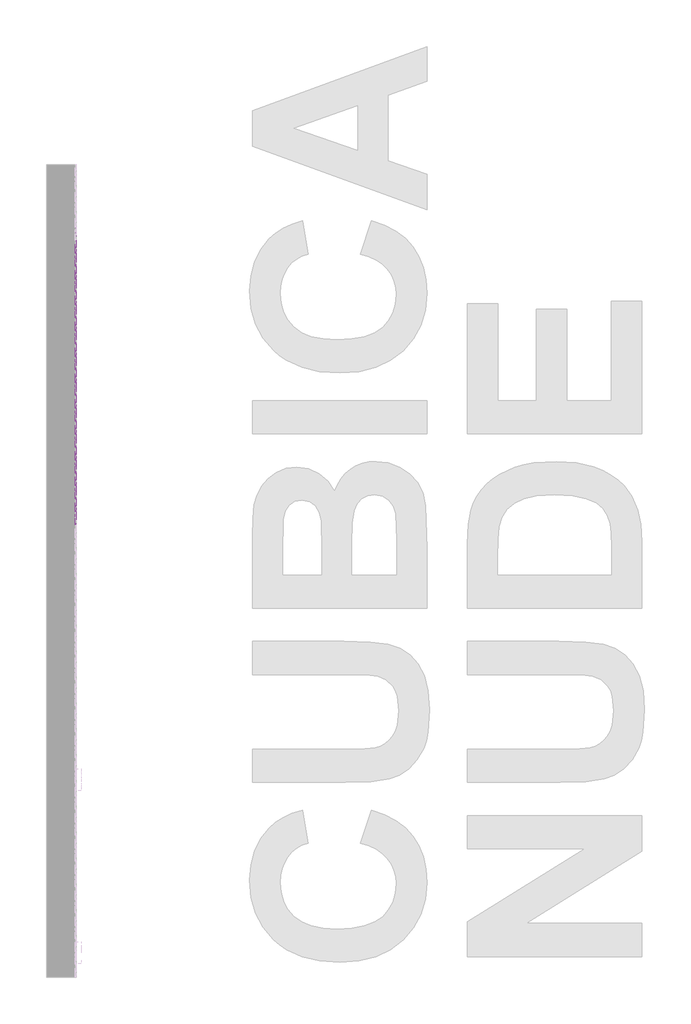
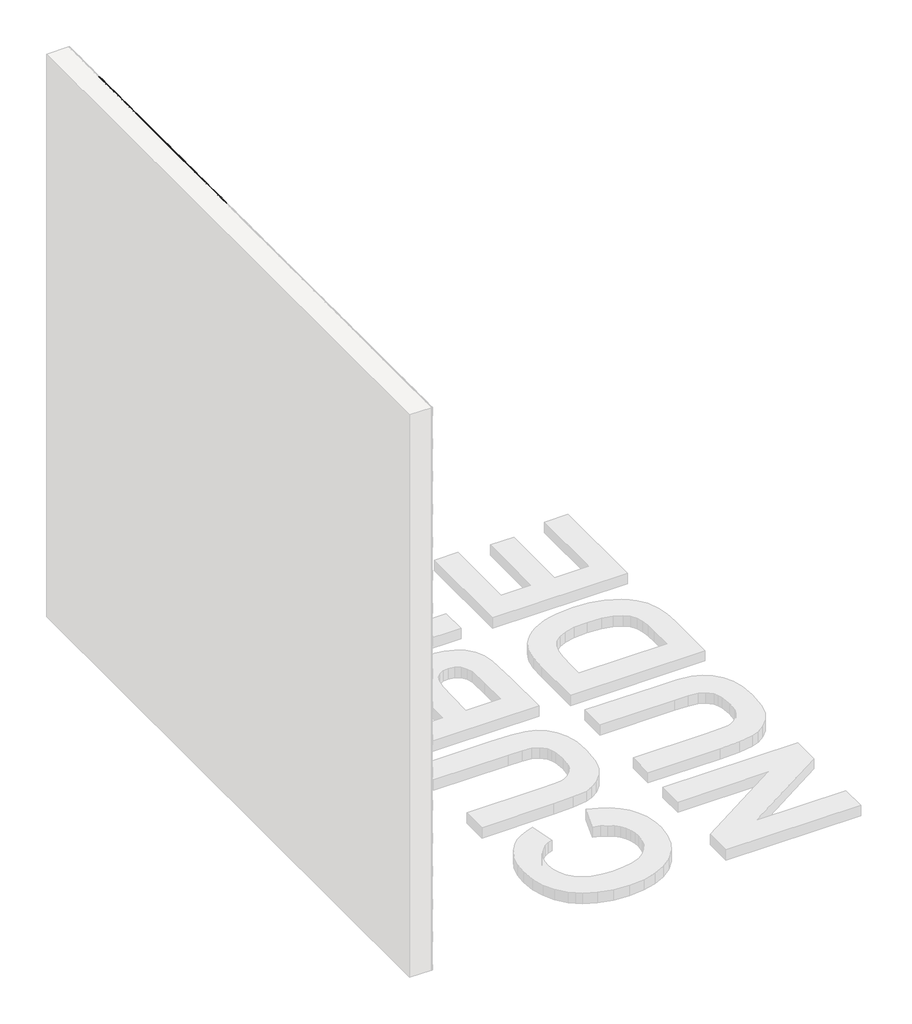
# One storey, part 71 of 121: 142 proxies.
"""IFC4 building model written with IfcOpenShell, lengths in millimetres."""

from ifc_helpers import new_model, si_unit, origin, place, context, project, spatial, transform, mapped, element, save
from components import generic_models_b2b2c5c1, generic_models_9bf73f6f, generic_models_5d175859, generic_models_95f85f1d, generic_models_e1ce04d0, generic_models_3c04e8e5, generic_models_61989c10, generic_models_336a48c1, generic_models_65d4feed, generic_models_3c364290, generic_models_b652511d

model = new_model("IFC4")

# Units and contexts
model_context = context("Model", 3, world=origin())
ifc_project = project(units=[si_unit("LENGTHUNIT", "METRE", prefix="MILLI")], contexts=[model_context])

# Site, building, storey
site = spatial("IfcSite", under=ifc_project)
building = spatial("IfcBuilding", under=site)
storey = spatial("IfcBuildingStorey", under=building, Name="PORTOBELLO - SHOWROOM", Elevation=0.0)

# Proxies
placement = place(None, origin())
generic_models_shape = generic_models_b2b2c5c1(model_context)
element("IfcBuildingElementProxy", 1, Name="PBSHOP - CUBICA NUDE 4,8X8,3 : CUBICA NUDE - POSIÇÃO 01", ObjectType="PBSHOP - CUBICA NUDE 4,8X8,3 : CUBICA NUDE - POSIÇÃO 01", at=placement, inside=storey, context=model_context, shape_type="MappedRepresentation", body=[
    mapped(generic_models_shape, transform((150369.5341846, 9030.8865536, 39.4221668), x_axis=(0.0, 1.0, 0.0), y_axis=(0.0, 0.0, 1.0), z_axis=(1.0, 0.0, 0.0))),
])
element("IfcBuildingElementProxy", 2, Name="PBSHOP - CUBICA NUDE 4,8X8,3 : CUBICA NUDE - POSIÇÃO 01", ObjectType="PBSHOP - CUBICA NUDE 4,8X8,3 : CUBICA NUDE - POSIÇÃO 01", at=placement, inside=storey, context=model_context, shape_type="MappedRepresentation", body=[
    mapped(generic_models_shape, transform((150369.5341846, 9121.7258229, 39.4221668), x_axis=(0.0, 1.0, 0.0), y_axis=(0.0, 0.0, 1.0), z_axis=(1.0, 0.0, 0.0))),
])
element("IfcBuildingElementProxy", 3, Name="PBSHOP - CUBICA NUDE 4,8X8,3 : CUBICA NUDE - POSIÇÃO 01", ObjectType="PBSHOP - CUBICA NUDE 4,8X8,3 : CUBICA NUDE - POSIÇÃO 01", at=placement, inside=storey, context=model_context, shape_type="MappedRepresentation", body=[
    mapped(generic_models_shape, transform((150369.5341846, 9076.3061883, 118.3568052), x_axis=(0.0, 1.0, 0.0), y_axis=(0.0, 0.0, 1.0), z_axis=(1.0, 0.0, 0.0))),
])
element("IfcBuildingElementProxy", 4, Name="PBSHOP - CUBICA NUDE 4,8X8,3 : CUBICA NUDE - POSIÇÃO 01", ObjectType="PBSHOP - CUBICA NUDE 4,8X8,3 : CUBICA NUDE - POSIÇÃO 01", at=placement, inside=storey, context=model_context, shape_type="MappedRepresentation", body=[
    mapped(generic_models_shape, transform((150369.5341846, 9167.1454575, 118.3568052), x_axis=(0.0, 1.0, 0.0), y_axis=(0.0, 0.0, 1.0), z_axis=(1.0, 0.0, 0.0))),
])
element("IfcBuildingElementProxy", 5, Name="PBSHOP - CUBICA NUDE 4,8X8,3 : CUBICA NUDE - POSIÇÃO 01", ObjectType="PBSHOP - CUBICA NUDE 4,8X8,3 : CUBICA NUDE - POSIÇÃO 01", at=placement, inside=storey, context=model_context, shape_type="MappedRepresentation", body=[
    mapped(generic_models_shape, transform((150369.5341846, 9030.8865536, 197.2914436), x_axis=(0.0, 1.0, 0.0), y_axis=(0.0, 0.0, 1.0), z_axis=(1.0, 0.0, 0.0))),
])
element("IfcBuildingElementProxy", 6, Name="PBSHOP - CUBICA NUDE 4,8X8,3 : CUBICA NUDE - POSIÇÃO 01", ObjectType="PBSHOP - CUBICA NUDE 4,8X8,3 : CUBICA NUDE - POSIÇÃO 01", at=placement, inside=storey, context=model_context, shape_type="MappedRepresentation", body=[
    mapped(generic_models_shape, transform((150369.5341846, 9121.7258229, 197.2914436), x_axis=(0.0, 1.0, 0.0), y_axis=(0.0, 0.0, 1.0), z_axis=(1.0, 0.0, 0.0))),
])
element("IfcBuildingElementProxy", 7, Name="PBSHOP - CUBICA NUDE 4,8X8,3 : CUBICA NUDE - POSIÇÃO 01", ObjectType="PBSHOP - CUBICA NUDE 4,8X8,3 : CUBICA NUDE - POSIÇÃO 01", at=placement, inside=storey, context=model_context, shape_type="MappedRepresentation", body=[
    mapped(generic_models_shape, transform((150369.5341846, 8622.109842, 2486.3959564), x_axis=(0.0, 1.0, 0.0), y_axis=(0.0, 0.0, 1.0), z_axis=(1.0, 0.0, 0.0))),
])
element("IfcBuildingElementProxy", 8, Name="PBSHOP - CUBICA NUDE 4,8X8,3 : CUBICA NUDE - POSIÇÃO 01", ObjectType="PBSHOP - CUBICA NUDE 4,8X8,3 : CUBICA NUDE - POSIÇÃO 01", at=placement, inside=storey, context=model_context, shape_type="MappedRepresentation", body=[
    mapped(generic_models_shape, transform((150369.5341846, 8712.9491113, 2486.3959564), x_axis=(0.0, 1.0, 0.0), y_axis=(0.0, 0.0, 1.0), z_axis=(1.0, 0.0, 0.0))),
])
element("IfcBuildingElementProxy", 9, Name="PBSHOP - CUBICA NUDE 4,8X8,3 : CUBICA NUDE - POSIÇÃO 01", ObjectType="PBSHOP - CUBICA NUDE 4,8X8,3 : CUBICA NUDE - POSIÇÃO 01", at=placement, inside=storey, context=model_context, shape_type="MappedRepresentation", body=[
    mapped(generic_models_shape, transform((150369.5341846, 8803.7883805, 2486.3959564), x_axis=(0.0, 1.0, 0.0), y_axis=(0.0, 0.0, 1.0), z_axis=(1.0, 0.0, 0.0))),
])
element("IfcBuildingElementProxy", 10, Name="PBSHOP - CUBICA NUDE 4,8X8,3 : CUBICA NUDE - POSIÇÃO 01", ObjectType="PBSHOP - CUBICA NUDE 4,8X8,3 : CUBICA NUDE - POSIÇÃO 01", at=placement, inside=storey, context=model_context, shape_type="MappedRepresentation", body=[
    mapped(generic_models_shape, transform((150369.5341846, 8894.6276498, 2486.3959564), x_axis=(0.0, 1.0, 0.0), y_axis=(0.0, 0.0, 1.0), z_axis=(1.0, 0.0, 0.0))),
])
element("IfcBuildingElementProxy", 11, Name="PBSHOP - CUBICA NUDE 4,8X8,3 : CUBICA NUDE - POSIÇÃO 01", ObjectType="PBSHOP - CUBICA NUDE 4,8X8,3 : CUBICA NUDE - POSIÇÃO 01", at=placement, inside=storey, context=model_context, shape_type="MappedRepresentation", body=[
    mapped(generic_models_shape, transform((150369.5341846, 8985.466919, 2486.3959564), x_axis=(0.0, 1.0, 0.0), y_axis=(0.0, 0.0, 1.0), z_axis=(1.0, 0.0, 0.0))),
])
element("IfcBuildingElementProxy", 12, Name="PBSHOP - CUBICA NUDE 4,8X8,3 : CUBICA NUDE - POSIÇÃO 01", ObjectType="PBSHOP - CUBICA NUDE 4,8X8,3 : CUBICA NUDE - POSIÇÃO 01", at=placement, inside=storey, context=model_context, shape_type="MappedRepresentation", body=[
    mapped(generic_models_shape, transform((150369.5341846, 8031.654592, 2565.3305948), x_axis=(0.0, 1.0, 0.0), y_axis=(0.0, 0.0, 1.0), z_axis=(1.0, 0.0, 0.0))),
])
element("IfcBuildingElementProxy", 13, Name="PBSHOP - CUBICA NUDE 4,8X8,3 : CUBICA NUDE - POSIÇÃO 01", ObjectType="PBSHOP - CUBICA NUDE 4,8X8,3 : CUBICA NUDE - POSIÇÃO 01", at=placement, inside=storey, context=model_context, shape_type="MappedRepresentation", body=[
    mapped(generic_models_shape, transform((150369.5341846, 8122.4938612, 2565.3305948), x_axis=(0.0, 1.0, 0.0), y_axis=(0.0, 0.0, 1.0), z_axis=(1.0, 0.0, 0.0))),
])
element("IfcBuildingElementProxy", 14, Name="PBSHOP - CUBICA NUDE 4,8X8,3 : CUBICA NUDE - POSIÇÃO 01", ObjectType="PBSHOP - CUBICA NUDE 4,8X8,3 : CUBICA NUDE - POSIÇÃO 01", at=placement, inside=storey, context=model_context, shape_type="MappedRepresentation", body=[
    mapped(generic_models_shape, transform((150369.5341846, 8213.3331304, 2565.3305948), x_axis=(0.0, 1.0, 0.0), y_axis=(0.0, 0.0, 1.0), z_axis=(1.0, 0.0, 0.0))),
])
element("IfcBuildingElementProxy", 15, Name="PBSHOP - CUBICA NUDE 4,8X8,3 : CUBICA NUDE - POSIÇÃO 01", ObjectType="PBSHOP - CUBICA NUDE 4,8X8,3 : CUBICA NUDE - POSIÇÃO 01", at=placement, inside=storey, context=model_context, shape_type="MappedRepresentation", body=[
    mapped(generic_models_shape, transform((150369.5341846, 8304.1723997, 2565.3305948), x_axis=(0.0, 1.0, 0.0), y_axis=(0.0, 0.0, 1.0), z_axis=(1.0, 0.0, 0.0))),
])
element("IfcBuildingElementProxy", 16, Name="PBSHOP - CUBICA NUDE 4,8X8,3 : CUBICA NUDE - POSIÇÃO 01", ObjectType="PBSHOP - CUBICA NUDE 4,8X8,3 : CUBICA NUDE - POSIÇÃO 01", at=placement, inside=storey, context=model_context, shape_type="MappedRepresentation", body=[
    mapped(generic_models_shape, transform((150369.5341846, 8395.0116689, 2565.3305948), x_axis=(0.0, 1.0, 0.0), y_axis=(0.0, 0.0, 1.0), z_axis=(1.0, 0.0, 0.0))),
])
element("IfcBuildingElementProxy", 17, Name="PBSHOP - CUBICA NUDE 4,8X8,3 : CUBICA NUDE - POSIÇÃO 01", ObjectType="PBSHOP - CUBICA NUDE 4,8X8,3 : CUBICA NUDE - POSIÇÃO 01", at=placement, inside=storey, context=model_context, shape_type="MappedRepresentation", body=[
    mapped(generic_models_shape, transform((150369.5341846, 8485.8509382, 2565.3305948), x_axis=(0.0, 1.0, 0.0), y_axis=(0.0, 0.0, 1.0), z_axis=(1.0, 0.0, 0.0))),
])
element("IfcBuildingElementProxy", 18, Name="PBSHOP - CUBICA NUDE 4,8X8,3 : CUBICA NUDE - POSIÇÃO 01", ObjectType="PBSHOP - CUBICA NUDE 4,8X8,3 : CUBICA NUDE - POSIÇÃO 01", at=placement, inside=storey, context=model_context, shape_type="MappedRepresentation", body=[
    mapped(generic_models_shape, transform((150369.5341846, 8576.6902074, 2565.3305948), x_axis=(0.0, 1.0, 0.0), y_axis=(0.0, 0.0, 1.0), z_axis=(1.0, 0.0, 0.0))),
])
element("IfcBuildingElementProxy", 19, Name="PBSHOP - CUBICA NUDE 4,8X8,3 : CUBICA NUDE - POSIÇÃO 01", ObjectType="PBSHOP - CUBICA NUDE 4,8X8,3 : CUBICA NUDE - POSIÇÃO 01", at=placement, inside=storey, context=model_context, shape_type="MappedRepresentation", body=[
    mapped(generic_models_shape, transform((150369.5341846, 8667.5294767, 2565.3305948), x_axis=(0.0, 1.0, 0.0), y_axis=(0.0, 0.0, 1.0), z_axis=(1.0, 0.0, 0.0))),
])
element("IfcBuildingElementProxy", 20, Name="PBSHOP - CUBICA NUDE 4,8X8,3 : CUBICA NUDE - POSIÇÃO 01", ObjectType="PBSHOP - CUBICA NUDE 4,8X8,3 : CUBICA NUDE - POSIÇÃO 01", at=placement, inside=storey, context=model_context, shape_type="MappedRepresentation", body=[
    mapped(generic_models_shape, transform((150369.5341846, 8758.3687459, 2565.3305948), x_axis=(0.0, 1.0, 0.0), y_axis=(0.0, 0.0, 1.0), z_axis=(1.0, 0.0, 0.0))),
])
element("IfcBuildingElementProxy", 21, Name="PBSHOP - CUBICA NUDE 4,8X8,3 : CUBICA NUDE - POSIÇÃO 01", ObjectType="PBSHOP - CUBICA NUDE 4,8X8,3 : CUBICA NUDE - POSIÇÃO 01", at=placement, inside=storey, context=model_context, shape_type="MappedRepresentation", body=[
    mapped(generic_models_shape, transform((150369.5341846, 8849.2080152, 2565.3305948), x_axis=(0.0, 1.0, 0.0), y_axis=(0.0, 0.0, 1.0), z_axis=(1.0, 0.0, 0.0))),
])
element("IfcBuildingElementProxy", 22, Name="PBSHOP - CUBICA NUDE 4,8X8,3 : CUBICA NUDE - POSIÇÃO 01", ObjectType="PBSHOP - CUBICA NUDE 4,8X8,3 : CUBICA NUDE - POSIÇÃO 01", at=placement, inside=storey, context=model_context, shape_type="MappedRepresentation", body=[
    mapped(generic_models_shape, transform((150369.5341846, 8940.0472844, 2565.3305948), x_axis=(0.0, 1.0, 0.0), y_axis=(0.0, 0.0, 1.0), z_axis=(1.0, 0.0, 0.0))),
])
element("IfcBuildingElementProxy", 23, Name="PBSHOP - CUBICA NUDE 4,8X8,3 : CUBICA NUDE - POSIÇÃO 01", ObjectType="PBSHOP - CUBICA NUDE 4,8X8,3 : CUBICA NUDE - POSIÇÃO 01", at=placement, inside=storey, context=model_context, shape_type="MappedRepresentation", body=[
    mapped(generic_models_shape, transform((150369.5341846, 8077.0742266, 2644.2652332), x_axis=(0.0, 1.0, 0.0), y_axis=(0.0, 0.0, 1.0), z_axis=(1.0, 0.0, 0.0))),
])
element("IfcBuildingElementProxy", 24, Name="PBSHOP - CUBICA NUDE 4,8X8,3 : CUBICA NUDE - POSIÇÃO 01", ObjectType="PBSHOP - CUBICA NUDE 4,8X8,3 : CUBICA NUDE - POSIÇÃO 01", at=placement, inside=storey, context=model_context, shape_type="MappedRepresentation", body=[
    mapped(generic_models_shape, transform((150369.5341846, 8167.9134958, 2644.2652332), x_axis=(0.0, 1.0, 0.0), y_axis=(0.0, 0.0, 1.0), z_axis=(1.0, 0.0, 0.0))),
])
element("IfcBuildingElementProxy", 25, Name="PBSHOP - CUBICA NUDE 4,8X8,3 : CUBICA NUDE - POSIÇÃO 01", ObjectType="PBSHOP - CUBICA NUDE 4,8X8,3 : CUBICA NUDE - POSIÇÃO 01", at=placement, inside=storey, context=model_context, shape_type="MappedRepresentation", body=[
    mapped(generic_models_shape, transform((150369.5341846, 8258.7527651, 2644.2652332), x_axis=(0.0, 1.0, 0.0), y_axis=(0.0, 0.0, 1.0), z_axis=(1.0, 0.0, 0.0))),
])
element("IfcBuildingElementProxy", 26, Name="PBSHOP - CUBICA NUDE 4,8X8,3 : CUBICA NUDE - POSIÇÃO 01", ObjectType="PBSHOP - CUBICA NUDE 4,8X8,3 : CUBICA NUDE - POSIÇÃO 01", at=placement, inside=storey, context=model_context, shape_type="MappedRepresentation", body=[
    mapped(generic_models_shape, transform((150369.5341846, 8349.5920343, 2644.2652332), x_axis=(0.0, 1.0, 0.0), y_axis=(0.0, 0.0, 1.0), z_axis=(1.0, 0.0, 0.0))),
])
element("IfcBuildingElementProxy", 27, Name="PBSHOP - CUBICA NUDE 4,8X8,3 : CUBICA NUDE - POSIÇÃO 01", ObjectType="PBSHOP - CUBICA NUDE 4,8X8,3 : CUBICA NUDE - POSIÇÃO 01", at=placement, inside=storey, context=model_context, shape_type="MappedRepresentation", body=[
    mapped(generic_models_shape, transform((150369.5341846, 8440.4313036, 2644.2652332), x_axis=(0.0, 1.0, 0.0), y_axis=(0.0, 0.0, 1.0), z_axis=(1.0, 0.0, 0.0))),
])
element("IfcBuildingElementProxy", 28, Name="PBSHOP - CUBICA NUDE 4,8X8,3 : CUBICA NUDE - POSIÇÃO 01", ObjectType="PBSHOP - CUBICA NUDE 4,8X8,3 : CUBICA NUDE - POSIÇÃO 01", at=placement, inside=storey, context=model_context, shape_type="MappedRepresentation", body=[
    mapped(generic_models_shape, transform((150369.5341846, 8531.2705728, 2644.2652332), x_axis=(0.0, 1.0, 0.0), y_axis=(0.0, 0.0, 1.0), z_axis=(1.0, 0.0, 0.0))),
])
element("IfcBuildingElementProxy", 29, Name="PBSHOP - CUBICA NUDE 4,8X8,3 : CUBICA NUDE - POSIÇÃO 01", ObjectType="PBSHOP - CUBICA NUDE 4,8X8,3 : CUBICA NUDE - POSIÇÃO 01", at=placement, inside=storey, context=model_context, shape_type="MappedRepresentation", body=[
    mapped(generic_models_shape, transform((150369.5341846, 8622.109842, 2644.2652332), x_axis=(0.0, 1.0, 0.0), y_axis=(0.0, 0.0, 1.0), z_axis=(1.0, 0.0, 0.0))),
])
element("IfcBuildingElementProxy", 30, Name="PBSHOP - CUBICA NUDE 4,8X8,3 : CUBICA NUDE - POSIÇÃO 01", ObjectType="PBSHOP - CUBICA NUDE 4,8X8,3 : CUBICA NUDE - POSIÇÃO 01", at=placement, inside=storey, context=model_context, shape_type="MappedRepresentation", body=[
    mapped(generic_models_shape, transform((150369.5341846, 8712.9491113, 2644.2652332), x_axis=(0.0, 1.0, 0.0), y_axis=(0.0, 0.0, 1.0), z_axis=(1.0, 0.0, 0.0))),
])
element("IfcBuildingElementProxy", 31, Name="PBSHOP - CUBICA NUDE 4,8X8,3 : CUBICA NUDE - POSIÇÃO 01", ObjectType="PBSHOP - CUBICA NUDE 4,8X8,3 : CUBICA NUDE - POSIÇÃO 01", at=placement, inside=storey, context=model_context, shape_type="MappedRepresentation", body=[
    mapped(generic_models_shape, transform((150369.5341846, 8803.7883805, 2644.2652332), x_axis=(0.0, 1.0, 0.0), y_axis=(0.0, 0.0, 1.0), z_axis=(1.0, 0.0, 0.0))),
])
element("IfcBuildingElementProxy", 32, Name="PBSHOP - CUBICA NUDE 4,8X8,3 : CUBICA NUDE - POSIÇÃO 01", ObjectType="PBSHOP - CUBICA NUDE 4,8X8,3 : CUBICA NUDE - POSIÇÃO 01", at=placement, inside=storey, context=model_context, shape_type="MappedRepresentation", body=[
    mapped(generic_models_shape, transform((150369.5341846, 8894.6276498, 2644.2652332), x_axis=(0.0, 1.0, 0.0), y_axis=(0.0, 0.0, 1.0), z_axis=(1.0, 0.0, 0.0))),
])
element("IfcBuildingElementProxy", 33, Name="PBSHOP - CUBICA NUDE 4,8X8,3 : CUBICA NUDE - POSIÇÃO 01", ObjectType="PBSHOP - CUBICA NUDE 4,8X8,3 : CUBICA NUDE - POSIÇÃO 01", at=placement, inside=storey, context=model_context, shape_type="MappedRepresentation", body=[
    mapped(generic_models_shape, transform((150369.5341846, 8985.466919, 2644.2652332), x_axis=(0.0, 1.0, 0.0), y_axis=(0.0, 0.0, 1.0), z_axis=(1.0, 0.0, 0.0))),
])
generic_models_2_shape = generic_models_9bf73f6f(model_context)
element("IfcBuildingElementProxy", 34, Name="PBSHOP - CUBICA NUDE 4,8X8,3 : CUBICA NUDE - POSIÇÃO 03", ObjectType="PBSHOP - CUBICA NUDE 4,8X8,3 : CUBICA NUDE - POSIÇÃO 03", at=placement, inside=storey, context=model_context, shape_type="MappedRepresentation", body=[
    mapped(generic_models_2_shape, transform((150369.5341846, 9053.5985301, 78.8482756), x_axis=(0.0, 1.0, 0.0), y_axis=(0.0, 0.0, 1.0), z_axis=(1.0, 0.0, 0.0))),
])
element("IfcBuildingElementProxy", 35, Name="PBSHOP - CUBICA NUDE 4,8X8,3 : CUBICA NUDE - POSIÇÃO 03", ObjectType="PBSHOP - CUBICA NUDE 4,8X8,3 : CUBICA NUDE - POSIÇÃO 03", at=placement, inside=storey, context=model_context, shape_type="MappedRepresentation", body=[
    mapped(generic_models_2_shape, transform((150369.5341846, 9144.4377994, 78.8482756), x_axis=(0.0, 1.0, 0.0), y_axis=(0.0, 0.0, 1.0), z_axis=(1.0, 0.0, 0.0))),
])
element("IfcBuildingElementProxy", 36, Name="PBSHOP - CUBICA NUDE 4,8X8,3 : CUBICA NUDE - POSIÇÃO 03", ObjectType="PBSHOP - CUBICA NUDE 4,8X8,3 : CUBICA NUDE - POSIÇÃO 03", at=placement, inside=storey, context=model_context, shape_type="MappedRepresentation", body=[
    mapped(generic_models_2_shape, transform((150369.5341846, 9008.1788955, 157.7829139), x_axis=(0.0, 1.0, 0.0), y_axis=(0.0, 0.0, 1.0), z_axis=(1.0, 0.0, 0.0))),
])
element("IfcBuildingElementProxy", 37, Name="PBSHOP - CUBICA NUDE 4,8X8,3 : CUBICA NUDE - POSIÇÃO 03", ObjectType="PBSHOP - CUBICA NUDE 4,8X8,3 : CUBICA NUDE - POSIÇÃO 03", at=placement, inside=storey, context=model_context, shape_type="MappedRepresentation", body=[
    mapped(generic_models_2_shape, transform((150369.5341846, 8054.3665684, 2446.8874268), x_axis=(0.0, 1.0, 0.0), y_axis=(0.0, 0.0, 1.0), z_axis=(1.0, 0.0, 0.0))),
])
element("IfcBuildingElementProxy", 38, Name="PBSHOP - CUBICA NUDE 4,8X8,3 : CUBICA NUDE - POSIÇÃO 03", ObjectType="PBSHOP - CUBICA NUDE 4,8X8,3 : CUBICA NUDE - POSIÇÃO 03", at=placement, inside=storey, context=model_context, shape_type="MappedRepresentation", body=[
    mapped(generic_models_2_shape, transform((150369.5341846, 8145.2058377, 2446.8874268), x_axis=(0.0, 1.0, 0.0), y_axis=(0.0, 0.0, 1.0), z_axis=(1.0, 0.0, 0.0))),
])
element("IfcBuildingElementProxy", 39, Name="PBSHOP - CUBICA NUDE 4,8X8,3 : CUBICA NUDE - POSIÇÃO 03", ObjectType="PBSHOP - CUBICA NUDE 4,8X8,3 : CUBICA NUDE - POSIÇÃO 03", at=placement, inside=storey, context=model_context, shape_type="MappedRepresentation", body=[
    mapped(generic_models_2_shape, transform((150369.5341846, 8236.0451069, 2446.8874268), x_axis=(0.0, 1.0, 0.0), y_axis=(0.0, 0.0, 1.0), z_axis=(1.0, 0.0, 0.0))),
])
element("IfcBuildingElementProxy", 40, Name="PBSHOP - CUBICA NUDE 4,8X8,3 : CUBICA NUDE - POSIÇÃO 03", ObjectType="PBSHOP - CUBICA NUDE 4,8X8,3 : CUBICA NUDE - POSIÇÃO 03", at=placement, inside=storey, context=model_context, shape_type="MappedRepresentation", body=[
    mapped(generic_models_2_shape, transform((150369.5341846, 8326.8843762, 2446.8874268), x_axis=(0.0, 1.0, 0.0), y_axis=(0.0, 0.0, 1.0), z_axis=(1.0, 0.0, 0.0))),
])
element("IfcBuildingElementProxy", 41, Name="PBSHOP - CUBICA NUDE 4,8X8,3 : CUBICA NUDE - POSIÇÃO 03", ObjectType="PBSHOP - CUBICA NUDE 4,8X8,3 : CUBICA NUDE - POSIÇÃO 03", at=placement, inside=storey, context=model_context, shape_type="MappedRepresentation", body=[
    mapped(generic_models_2_shape, transform((150369.5341846, 8417.7236454, 2446.8874268), x_axis=(0.0, 1.0, 0.0), y_axis=(0.0, 0.0, 1.0), z_axis=(1.0, 0.0, 0.0))),
])
element("IfcBuildingElementProxy", 42, Name="PBSHOP - CUBICA NUDE 4,8X8,3 : CUBICA NUDE - POSIÇÃO 03", ObjectType="PBSHOP - CUBICA NUDE 4,8X8,3 : CUBICA NUDE - POSIÇÃO 03", at=placement, inside=storey, context=model_context, shape_type="MappedRepresentation", body=[
    mapped(generic_models_2_shape, transform((150369.5341846, 8508.5629147, 2446.8874268), x_axis=(0.0, 1.0, 0.0), y_axis=(0.0, 0.0, 1.0), z_axis=(1.0, 0.0, 0.0))),
])
element("IfcBuildingElementProxy", 43, Name="PBSHOP - CUBICA NUDE 4,8X8,3 : CUBICA NUDE - POSIÇÃO 03", ObjectType="PBSHOP - CUBICA NUDE 4,8X8,3 : CUBICA NUDE - POSIÇÃO 03", at=placement, inside=storey, context=model_context, shape_type="MappedRepresentation", body=[
    mapped(generic_models_2_shape, transform((150369.5341846, 8599.4021839, 2446.8874268), x_axis=(0.0, 1.0, 0.0), y_axis=(0.0, 0.0, 1.0), z_axis=(1.0, 0.0, 0.0))),
])
element("IfcBuildingElementProxy", 44, Name="PBSHOP - CUBICA NUDE 4,8X8,3 : CUBICA NUDE - POSIÇÃO 03", ObjectType="PBSHOP - CUBICA NUDE 4,8X8,3 : CUBICA NUDE - POSIÇÃO 03", at=placement, inside=storey, context=model_context, shape_type="MappedRepresentation", body=[
    mapped(generic_models_2_shape, transform((150369.5341846, 8690.2414531, 2446.8874268), x_axis=(0.0, 1.0, 0.0), y_axis=(0.0, 0.0, 1.0), z_axis=(1.0, 0.0, 0.0))),
])
element("IfcBuildingElementProxy", 45, Name="PBSHOP - CUBICA NUDE 4,8X8,3 : CUBICA NUDE - POSIÇÃO 03", ObjectType="PBSHOP - CUBICA NUDE 4,8X8,3 : CUBICA NUDE - POSIÇÃO 03", at=placement, inside=storey, context=model_context, shape_type="MappedRepresentation", body=[
    mapped(generic_models_2_shape, transform((150369.5341846, 8781.0807224, 2446.8874268), x_axis=(0.0, 1.0, 0.0), y_axis=(0.0, 0.0, 1.0), z_axis=(1.0, 0.0, 0.0))),
])
element("IfcBuildingElementProxy", 46, Name="PBSHOP - CUBICA NUDE 4,8X8,3 : CUBICA NUDE - POSIÇÃO 03", ObjectType="PBSHOP - CUBICA NUDE 4,8X8,3 : CUBICA NUDE - POSIÇÃO 03", at=placement, inside=storey, context=model_context, shape_type="MappedRepresentation", body=[
    mapped(generic_models_2_shape, transform((150369.5341846, 8871.9199916, 2446.8874268), x_axis=(0.0, 1.0, 0.0), y_axis=(0.0, 0.0, 1.0), z_axis=(1.0, 0.0, 0.0))),
])
element("IfcBuildingElementProxy", 47, Name="PBSHOP - CUBICA NUDE 4,8X8,3 : CUBICA NUDE - POSIÇÃO 03", ObjectType="PBSHOP - CUBICA NUDE 4,8X8,3 : CUBICA NUDE - POSIÇÃO 03", at=placement, inside=storey, context=model_context, shape_type="MappedRepresentation", body=[
    mapped(generic_models_2_shape, transform((150369.5341846, 8962.7592609, 2446.8874268), x_axis=(0.0, 1.0, 0.0), y_axis=(0.0, 0.0, 1.0), z_axis=(1.0, 0.0, 0.0))),
])
element("IfcBuildingElementProxy", 48, Name="PBSHOP - CUBICA NUDE 4,8X8,3 : CUBICA NUDE - POSIÇÃO 03", ObjectType="PBSHOP - CUBICA NUDE 4,8X8,3 : CUBICA NUDE - POSIÇÃO 03", at=placement, inside=storey, context=model_context, shape_type="MappedRepresentation", body=[
    mapped(generic_models_2_shape, transform((150369.5341846, 8008.9469338, 2525.8220652), x_axis=(0.0, 1.0, 0.0), y_axis=(0.0, 0.0, 1.0), z_axis=(1.0, 0.0, 0.0))),
])
element("IfcBuildingElementProxy", 49, Name="PBSHOP - CUBICA NUDE 4,8X8,3 : CUBICA NUDE - POSIÇÃO 03", ObjectType="PBSHOP - CUBICA NUDE 4,8X8,3 : CUBICA NUDE - POSIÇÃO 03", at=placement, inside=storey, context=model_context, shape_type="MappedRepresentation", body=[
    mapped(generic_models_2_shape, transform((150369.5341846, 8099.7862031, 2525.8220652), x_axis=(0.0, 1.0, 0.0), y_axis=(0.0, 0.0, 1.0), z_axis=(1.0, 0.0, 0.0))),
])
element("IfcBuildingElementProxy", 50, Name="PBSHOP - CUBICA NUDE 4,8X8,3 : CUBICA NUDE - POSIÇÃO 03", ObjectType="PBSHOP - CUBICA NUDE 4,8X8,3 : CUBICA NUDE - POSIÇÃO 03", at=placement, inside=storey, context=model_context, shape_type="MappedRepresentation", body=[
    mapped(generic_models_2_shape, transform((150369.5341846, 8190.6254723, 2525.8220652), x_axis=(0.0, 1.0, 0.0), y_axis=(0.0, 0.0, 1.0), z_axis=(1.0, 0.0, 0.0))),
])
element("IfcBuildingElementProxy", 51, Name="PBSHOP - CUBICA NUDE 4,8X8,3 : CUBICA NUDE - POSIÇÃO 03", ObjectType="PBSHOP - CUBICA NUDE 4,8X8,3 : CUBICA NUDE - POSIÇÃO 03", at=placement, inside=storey, context=model_context, shape_type="MappedRepresentation", body=[
    mapped(generic_models_2_shape, transform((150369.5341846, 8281.4647415, 2525.8220652), x_axis=(0.0, 1.0, 0.0), y_axis=(0.0, 0.0, 1.0), z_axis=(1.0, 0.0, 0.0))),
])
element("IfcBuildingElementProxy", 52, Name="PBSHOP - CUBICA NUDE 4,8X8,3 : CUBICA NUDE - POSIÇÃO 03", ObjectType="PBSHOP - CUBICA NUDE 4,8X8,3 : CUBICA NUDE - POSIÇÃO 03", at=placement, inside=storey, context=model_context, shape_type="MappedRepresentation", body=[
    mapped(generic_models_2_shape, transform((150369.5341846, 8372.3040108, 2525.8220652), x_axis=(0.0, 1.0, 0.0), y_axis=(0.0, 0.0, 1.0), z_axis=(1.0, 0.0, 0.0))),
])
element("IfcBuildingElementProxy", 53, Name="PBSHOP - CUBICA NUDE 4,8X8,3 : CUBICA NUDE - POSIÇÃO 03", ObjectType="PBSHOP - CUBICA NUDE 4,8X8,3 : CUBICA NUDE - POSIÇÃO 03", at=placement, inside=storey, context=model_context, shape_type="MappedRepresentation", body=[
    mapped(generic_models_2_shape, transform((150369.5341846, 8463.14328, 2525.8220652), x_axis=(0.0, 1.0, 0.0), y_axis=(0.0, 0.0, 1.0), z_axis=(1.0, 0.0, 0.0))),
])
element("IfcBuildingElementProxy", 54, Name="PBSHOP - CUBICA NUDE 4,8X8,3 : CUBICA NUDE - POSIÇÃO 03", ObjectType="PBSHOP - CUBICA NUDE 4,8X8,3 : CUBICA NUDE - POSIÇÃO 03", at=placement, inside=storey, context=model_context, shape_type="MappedRepresentation", body=[
    mapped(generic_models_2_shape, transform((150369.5341846, 8553.9825493, 2525.8220652), x_axis=(0.0, 1.0, 0.0), y_axis=(0.0, 0.0, 1.0), z_axis=(1.0, 0.0, 0.0))),
])
element("IfcBuildingElementProxy", 55, Name="PBSHOP - CUBICA NUDE 4,8X8,3 : CUBICA NUDE - POSIÇÃO 03", ObjectType="PBSHOP - CUBICA NUDE 4,8X8,3 : CUBICA NUDE - POSIÇÃO 03", at=placement, inside=storey, context=model_context, shape_type="MappedRepresentation", body=[
    mapped(generic_models_2_shape, transform((150369.5341846, 8644.8218185, 2525.8220652), x_axis=(0.0, 1.0, 0.0), y_axis=(0.0, 0.0, 1.0), z_axis=(1.0, 0.0, 0.0))),
])
element("IfcBuildingElementProxy", 56, Name="PBSHOP - CUBICA NUDE 4,8X8,3 : CUBICA NUDE - POSIÇÃO 03", ObjectType="PBSHOP - CUBICA NUDE 4,8X8,3 : CUBICA NUDE - POSIÇÃO 03", at=placement, inside=storey, context=model_context, shape_type="MappedRepresentation", body=[
    mapped(generic_models_2_shape, transform((150369.5341846, 8735.6610878, 2525.8220652), x_axis=(0.0, 1.0, 0.0), y_axis=(0.0, 0.0, 1.0), z_axis=(1.0, 0.0, 0.0))),
])
element("IfcBuildingElementProxy", 57, Name="PBSHOP - CUBICA NUDE 4,8X8,3 : CUBICA NUDE - POSIÇÃO 03", ObjectType="PBSHOP - CUBICA NUDE 4,8X8,3 : CUBICA NUDE - POSIÇÃO 03", at=placement, inside=storey, context=model_context, shape_type="MappedRepresentation", body=[
    mapped(generic_models_2_shape, transform((150369.5341846, 8826.500357, 2525.8220652), x_axis=(0.0, 1.0, 0.0), y_axis=(0.0, 0.0, 1.0), z_axis=(1.0, 0.0, 0.0))),
])
element("IfcBuildingElementProxy", 58, Name="PBSHOP - CUBICA NUDE 4,8X8,3 : CUBICA NUDE - POSIÇÃO 03", ObjectType="PBSHOP - CUBICA NUDE 4,8X8,3 : CUBICA NUDE - POSIÇÃO 03", at=placement, inside=storey, context=model_context, shape_type="MappedRepresentation", body=[
    mapped(generic_models_2_shape, transform((150369.5341846, 8917.3396263, 2525.8220652), x_axis=(0.0, 1.0, 0.0), y_axis=(0.0, 0.0, 1.0), z_axis=(1.0, 0.0, 0.0))),
])
element("IfcBuildingElementProxy", 59, Name="PBSHOP - CUBICA NUDE 4,8X8,3 : CUBICA NUDE - POSIÇÃO 03", ObjectType="PBSHOP - CUBICA NUDE 4,8X8,3 : CUBICA NUDE - POSIÇÃO 03", at=placement, inside=storey, context=model_context, shape_type="MappedRepresentation", body=[
    mapped(generic_models_2_shape, transform((150369.5341846, 8054.3665684, 2604.7567035), x_axis=(0.0, 1.0, 0.0), y_axis=(0.0, 0.0, 1.0), z_axis=(1.0, 0.0, 0.0))),
])
element("IfcBuildingElementProxy", 60, Name="PBSHOP - CUBICA NUDE 4,8X8,3 : CUBICA NUDE - POSIÇÃO 03", ObjectType="PBSHOP - CUBICA NUDE 4,8X8,3 : CUBICA NUDE - POSIÇÃO 03", at=placement, inside=storey, context=model_context, shape_type="MappedRepresentation", body=[
    mapped(generic_models_2_shape, transform((150369.5341846, 8145.2058377, 2604.7567035), x_axis=(0.0, 1.0, 0.0), y_axis=(0.0, 0.0, 1.0), z_axis=(1.0, 0.0, 0.0))),
])
element("IfcBuildingElementProxy", 61, Name="PBSHOP - CUBICA NUDE 4,8X8,3 : CUBICA NUDE - POSIÇÃO 03", ObjectType="PBSHOP - CUBICA NUDE 4,8X8,3 : CUBICA NUDE - POSIÇÃO 03", at=placement, inside=storey, context=model_context, shape_type="MappedRepresentation", body=[
    mapped(generic_models_2_shape, transform((150369.5341846, 8236.0451069, 2604.7567035), x_axis=(0.0, 1.0, 0.0), y_axis=(0.0, 0.0, 1.0), z_axis=(1.0, 0.0, 0.0))),
])
element("IfcBuildingElementProxy", 62, Name="PBSHOP - CUBICA NUDE 4,8X8,3 : CUBICA NUDE - POSIÇÃO 03", ObjectType="PBSHOP - CUBICA NUDE 4,8X8,3 : CUBICA NUDE - POSIÇÃO 03", at=placement, inside=storey, context=model_context, shape_type="MappedRepresentation", body=[
    mapped(generic_models_2_shape, transform((150369.5341846, 8326.8843762, 2604.7567035), x_axis=(0.0, 1.0, 0.0), y_axis=(0.0, 0.0, 1.0), z_axis=(1.0, 0.0, 0.0))),
])
element("IfcBuildingElementProxy", 63, Name="PBSHOP - CUBICA NUDE 4,8X8,3 : CUBICA NUDE - POSIÇÃO 03", ObjectType="PBSHOP - CUBICA NUDE 4,8X8,3 : CUBICA NUDE - POSIÇÃO 03", at=placement, inside=storey, context=model_context, shape_type="MappedRepresentation", body=[
    mapped(generic_models_2_shape, transform((150369.5341846, 8417.7236454, 2604.7567035), x_axis=(0.0, 1.0, 0.0), y_axis=(0.0, 0.0, 1.0), z_axis=(1.0, 0.0, 0.0))),
])
element("IfcBuildingElementProxy", 64, Name="PBSHOP - CUBICA NUDE 4,8X8,3 : CUBICA NUDE - POSIÇÃO 03", ObjectType="PBSHOP - CUBICA NUDE 4,8X8,3 : CUBICA NUDE - POSIÇÃO 03", at=placement, inside=storey, context=model_context, shape_type="MappedRepresentation", body=[
    mapped(generic_models_2_shape, transform((150369.5341846, 8508.5629147, 2604.7567035), x_axis=(0.0, 1.0, 0.0), y_axis=(0.0, 0.0, 1.0), z_axis=(1.0, 0.0, 0.0))),
])
element("IfcBuildingElementProxy", 65, Name="PBSHOP - CUBICA NUDE 4,8X8,3 : CUBICA NUDE - POSIÇÃO 03", ObjectType="PBSHOP - CUBICA NUDE 4,8X8,3 : CUBICA NUDE - POSIÇÃO 03", at=placement, inside=storey, context=model_context, shape_type="MappedRepresentation", body=[
    mapped(generic_models_2_shape, transform((150369.5341846, 8599.4021839, 2604.7567035), x_axis=(0.0, 1.0, 0.0), y_axis=(0.0, 0.0, 1.0), z_axis=(1.0, 0.0, 0.0))),
])
element("IfcBuildingElementProxy", 66, Name="PBSHOP - CUBICA NUDE 4,8X8,3 : CUBICA NUDE - POSIÇÃO 03", ObjectType="PBSHOP - CUBICA NUDE 4,8X8,3 : CUBICA NUDE - POSIÇÃO 03", at=placement, inside=storey, context=model_context, shape_type="MappedRepresentation", body=[
    mapped(generic_models_2_shape, transform((150369.5341846, 8690.2414531, 2604.7567035), x_axis=(0.0, 1.0, 0.0), y_axis=(0.0, 0.0, 1.0), z_axis=(1.0, 0.0, 0.0))),
])
element("IfcBuildingElementProxy", 67, Name="PBSHOP - CUBICA NUDE 4,8X8,3 : CUBICA NUDE - POSIÇÃO 03", ObjectType="PBSHOP - CUBICA NUDE 4,8X8,3 : CUBICA NUDE - POSIÇÃO 03", at=placement, inside=storey, context=model_context, shape_type="MappedRepresentation", body=[
    mapped(generic_models_2_shape, transform((150369.5341846, 8781.0807224, 2604.7567035), x_axis=(0.0, 1.0, 0.0), y_axis=(0.0, 0.0, 1.0), z_axis=(1.0, 0.0, 0.0))),
])
element("IfcBuildingElementProxy", 68, Name="PBSHOP - CUBICA NUDE 4,8X8,3 : CUBICA NUDE - POSIÇÃO 03", ObjectType="PBSHOP - CUBICA NUDE 4,8X8,3 : CUBICA NUDE - POSIÇÃO 03", at=placement, inside=storey, context=model_context, shape_type="MappedRepresentation", body=[
    mapped(generic_models_2_shape, transform((150369.5341846, 8871.9199916, 2604.7567035), x_axis=(0.0, 1.0, 0.0), y_axis=(0.0, 0.0, 1.0), z_axis=(1.0, 0.0, 0.0))),
])
element("IfcBuildingElementProxy", 69, Name="PBSHOP - CUBICA NUDE 4,8X8,3 : CUBICA NUDE - POSIÇÃO 03", ObjectType="PBSHOP - CUBICA NUDE 4,8X8,3 : CUBICA NUDE - POSIÇÃO 03", at=placement, inside=storey, context=model_context, shape_type="MappedRepresentation", body=[
    mapped(generic_models_2_shape, transform((150369.5341846, 8962.7592609, 2604.7567035), x_axis=(0.0, 1.0, 0.0), y_axis=(0.0, 0.0, 1.0), z_axis=(1.0, 0.0, 0.0))),
])
generic_models_3_shape = generic_models_5d175859(model_context)
element("IfcBuildingElementProxy", 70, Name="PBSHOP - CUBICA NUDE 4,8X8,3 : CUBICA NUDE - POSIÇÃO 01", ObjectType="PBSHOP - CUBICA NUDE 4,8X8,3 : CUBICA NUDE - POSIÇÃO 01", at=placement, inside=storey, context=model_context, shape_type="MappedRepresentation", body=[
    mapped(generic_models_3_shape, transform((150369.5341846, 9076.3105066, 39.4221668), x_axis=(0.0, -1.0, 0.0), y_axis=(0.0, 0.0, -1.0), z_axis=(1.0, 0.0, 0.0))),
])
element("IfcBuildingElementProxy", 71, Name="PBSHOP - CUBICA NUDE 4,8X8,3 : CUBICA NUDE - POSIÇÃO 01", ObjectType="PBSHOP - CUBICA NUDE 4,8X8,3 : CUBICA NUDE - POSIÇÃO 01", at=placement, inside=storey, context=model_context, shape_type="MappedRepresentation", body=[
    mapped(generic_models_3_shape, transform((150369.5341846, 9167.1497758, 39.4221668), x_axis=(0.0, -1.0, 0.0), y_axis=(0.0, 0.0, -1.0), z_axis=(1.0, 0.0, 0.0))),
])
element("IfcBuildingElementProxy", 72, Name="PBSHOP - CUBICA NUDE 4,8X8,3 : CUBICA NUDE - POSIÇÃO 01", ObjectType="PBSHOP - CUBICA NUDE 4,8X8,3 : CUBICA NUDE - POSIÇÃO 01", at=placement, inside=storey, context=model_context, shape_type="MappedRepresentation", body=[
    mapped(generic_models_3_shape, transform((150369.5341846, 9030.890872, 118.3568052), x_axis=(0.0, -1.0, 0.0), y_axis=(0.0, 0.0, -1.0), z_axis=(1.0, 0.0, 0.0))),
])
element("IfcBuildingElementProxy", 73, Name="PBSHOP - CUBICA NUDE 4,8X8,3 : CUBICA NUDE - POSIÇÃO 01", ObjectType="PBSHOP - CUBICA NUDE 4,8X8,3 : CUBICA NUDE - POSIÇÃO 01", at=placement, inside=storey, context=model_context, shape_type="MappedRepresentation", body=[
    mapped(generic_models_3_shape, transform((150369.5341846, 9121.7301412, 118.3568052), x_axis=(0.0, -1.0, 0.0), y_axis=(0.0, 0.0, -1.0), z_axis=(1.0, 0.0, 0.0))),
])
element("IfcBuildingElementProxy", 74, Name="PBSHOP - CUBICA NUDE 4,8X8,3 : CUBICA NUDE - POSIÇÃO 01", ObjectType="PBSHOP - CUBICA NUDE 4,8X8,3 : CUBICA NUDE - POSIÇÃO 01", at=placement, inside=storey, context=model_context, shape_type="MappedRepresentation", body=[
    mapped(generic_models_3_shape, transform((150369.5341846, 9076.3105066, 197.2914436), x_axis=(0.0, -1.0, 0.0), y_axis=(0.0, 0.0, -1.0), z_axis=(1.0, 0.0, 0.0))),
])
element("IfcBuildingElementProxy", 75, Name="PBSHOP - CUBICA NUDE 4,8X8,3 : CUBICA NUDE - POSIÇÃO 01", ObjectType="PBSHOP - CUBICA NUDE 4,8X8,3 : CUBICA NUDE - POSIÇÃO 01", at=placement, inside=storey, context=model_context, shape_type="MappedRepresentation", body=[
    mapped(generic_models_3_shape, transform((150369.5341846, 9167.1497758, 197.2914436), x_axis=(0.0, -1.0, 0.0), y_axis=(0.0, 0.0, -1.0), z_axis=(1.0, 0.0, 0.0))),
])
element("IfcBuildingElementProxy", 76, Name="PBSHOP - CUBICA NUDE 4,8X8,3 : CUBICA NUDE - POSIÇÃO 01", ObjectType="PBSHOP - CUBICA NUDE 4,8X8,3 : CUBICA NUDE - POSIÇÃO 01", at=placement, inside=storey, context=model_context, shape_type="MappedRepresentation", body=[
    mapped(generic_models_3_shape, transform((150369.5341846, 8576.6945258, 2486.3959564), x_axis=(0.0, -1.0, 0.0), y_axis=(0.0, 0.0, -1.0), z_axis=(1.0, 0.0, 0.0))),
])
element("IfcBuildingElementProxy", 77, Name="PBSHOP - CUBICA NUDE 4,8X8,3 : CUBICA NUDE - POSIÇÃO 01", ObjectType="PBSHOP - CUBICA NUDE 4,8X8,3 : CUBICA NUDE - POSIÇÃO 01", at=placement, inside=storey, context=model_context, shape_type="MappedRepresentation", body=[
    mapped(generic_models_3_shape, transform((150369.5341846, 8667.533795, 2486.3959564), x_axis=(0.0, -1.0, 0.0), y_axis=(0.0, 0.0, -1.0), z_axis=(1.0, 0.0, 0.0))),
])
element("IfcBuildingElementProxy", 78, Name="PBSHOP - CUBICA NUDE 4,8X8,3 : CUBICA NUDE - POSIÇÃO 01", ObjectType="PBSHOP - CUBICA NUDE 4,8X8,3 : CUBICA NUDE - POSIÇÃO 01", at=placement, inside=storey, context=model_context, shape_type="MappedRepresentation", body=[
    mapped(generic_models_3_shape, transform((150369.5341846, 8758.3730642, 2486.3959564), x_axis=(0.0, -1.0, 0.0), y_axis=(0.0, 0.0, -1.0), z_axis=(1.0, 0.0, 0.0))),
])
element("IfcBuildingElementProxy", 79, Name="PBSHOP - CUBICA NUDE 4,8X8,3 : CUBICA NUDE - POSIÇÃO 01", ObjectType="PBSHOP - CUBICA NUDE 4,8X8,3 : CUBICA NUDE - POSIÇÃO 01", at=placement, inside=storey, context=model_context, shape_type="MappedRepresentation", body=[
    mapped(generic_models_3_shape, transform((150369.5341846, 8849.2123335, 2486.3959564), x_axis=(0.0, -1.0, 0.0), y_axis=(0.0, 0.0, -1.0), z_axis=(1.0, 0.0, 0.0))),
])
element("IfcBuildingElementProxy", 80, Name="PBSHOP - CUBICA NUDE 4,8X8,3 : CUBICA NUDE - POSIÇÃO 01", ObjectType="PBSHOP - CUBICA NUDE 4,8X8,3 : CUBICA NUDE - POSIÇÃO 01", at=placement, inside=storey, context=model_context, shape_type="MappedRepresentation", body=[
    mapped(generic_models_3_shape, transform((150369.5341846, 8940.0516027, 2486.3959564), x_axis=(0.0, -1.0, 0.0), y_axis=(0.0, 0.0, -1.0), z_axis=(1.0, 0.0, 0.0))),
])
element("IfcBuildingElementProxy", 81, Name="PBSHOP - CUBICA NUDE 4,8X8,3 : CUBICA NUDE - POSIÇÃO 01", ObjectType="PBSHOP - CUBICA NUDE 4,8X8,3 : CUBICA NUDE - POSIÇÃO 01", at=placement, inside=storey, context=model_context, shape_type="MappedRepresentation", body=[
    mapped(generic_models_3_shape, transform((150369.5341846, 8077.0785449, 2565.3305948), x_axis=(0.0, -1.0, 0.0), y_axis=(0.0, 0.0, -1.0), z_axis=(1.0, 0.0, 0.0))),
])
element("IfcBuildingElementProxy", 82, Name="PBSHOP - CUBICA NUDE 4,8X8,3 : CUBICA NUDE - POSIÇÃO 01", ObjectType="PBSHOP - CUBICA NUDE 4,8X8,3 : CUBICA NUDE - POSIÇÃO 01", at=placement, inside=storey, context=model_context, shape_type="MappedRepresentation", body=[
    mapped(generic_models_3_shape, transform((150369.5341846, 8167.9178142, 2565.3305948), x_axis=(0.0, -1.0, 0.0), y_axis=(0.0, 0.0, -1.0), z_axis=(1.0, 0.0, 0.0))),
])
element("IfcBuildingElementProxy", 83, Name="PBSHOP - CUBICA NUDE 4,8X8,3 : CUBICA NUDE - POSIÇÃO 01", ObjectType="PBSHOP - CUBICA NUDE 4,8X8,3 : CUBICA NUDE - POSIÇÃO 01", at=placement, inside=storey, context=model_context, shape_type="MappedRepresentation", body=[
    mapped(generic_models_3_shape, transform((150369.5341846, 8258.7570834, 2565.3305948), x_axis=(0.0, -1.0, 0.0), y_axis=(0.0, 0.0, -1.0), z_axis=(1.0, 0.0, 0.0))),
])
element("IfcBuildingElementProxy", 84, Name="PBSHOP - CUBICA NUDE 4,8X8,3 : CUBICA NUDE - POSIÇÃO 01", ObjectType="PBSHOP - CUBICA NUDE 4,8X8,3 : CUBICA NUDE - POSIÇÃO 01", at=placement, inside=storey, context=model_context, shape_type="MappedRepresentation", body=[
    mapped(generic_models_3_shape, transform((150369.5341846, 8349.5963526, 2565.3305948), x_axis=(0.0, -1.0, 0.0), y_axis=(0.0, 0.0, -1.0), z_axis=(1.0, 0.0, 0.0))),
])
element("IfcBuildingElementProxy", 85, Name="PBSHOP - CUBICA NUDE 4,8X8,3 : CUBICA NUDE - POSIÇÃO 01", ObjectType="PBSHOP - CUBICA NUDE 4,8X8,3 : CUBICA NUDE - POSIÇÃO 01", at=placement, inside=storey, context=model_context, shape_type="MappedRepresentation", body=[
    mapped(generic_models_3_shape, transform((150369.5341846, 8440.4356219, 2565.3305948), x_axis=(0.0, -1.0, 0.0), y_axis=(0.0, 0.0, -1.0), z_axis=(1.0, 0.0, 0.0))),
])
element("IfcBuildingElementProxy", 86, Name="PBSHOP - CUBICA NUDE 4,8X8,3 : CUBICA NUDE - POSIÇÃO 01", ObjectType="PBSHOP - CUBICA NUDE 4,8X8,3 : CUBICA NUDE - POSIÇÃO 01", at=placement, inside=storey, context=model_context, shape_type="MappedRepresentation", body=[
    mapped(generic_models_3_shape, transform((150369.5341846, 8531.2748911, 2565.3305948), x_axis=(0.0, -1.0, 0.0), y_axis=(0.0, 0.0, -1.0), z_axis=(1.0, 0.0, 0.0))),
])
element("IfcBuildingElementProxy", 87, Name="PBSHOP - CUBICA NUDE 4,8X8,3 : CUBICA NUDE - POSIÇÃO 01", ObjectType="PBSHOP - CUBICA NUDE 4,8X8,3 : CUBICA NUDE - POSIÇÃO 01", at=placement, inside=storey, context=model_context, shape_type="MappedRepresentation", body=[
    mapped(generic_models_3_shape, transform((150369.5341846, 8622.1141604, 2565.3305948), x_axis=(0.0, -1.0, 0.0), y_axis=(0.0, 0.0, -1.0), z_axis=(1.0, 0.0, 0.0))),
])
element("IfcBuildingElementProxy", 88, Name="PBSHOP - CUBICA NUDE 4,8X8,3 : CUBICA NUDE - POSIÇÃO 01", ObjectType="PBSHOP - CUBICA NUDE 4,8X8,3 : CUBICA NUDE - POSIÇÃO 01", at=placement, inside=storey, context=model_context, shape_type="MappedRepresentation", body=[
    mapped(generic_models_3_shape, transform((150369.5341846, 8712.9534296, 2565.3305948), x_axis=(0.0, -1.0, 0.0), y_axis=(0.0, 0.0, -1.0), z_axis=(1.0, 0.0, 0.0))),
])
element("IfcBuildingElementProxy", 89, Name="PBSHOP - CUBICA NUDE 4,8X8,3 : CUBICA NUDE - POSIÇÃO 01", ObjectType="PBSHOP - CUBICA NUDE 4,8X8,3 : CUBICA NUDE - POSIÇÃO 01", at=placement, inside=storey, context=model_context, shape_type="MappedRepresentation", body=[
    mapped(generic_models_3_shape, transform((150369.5341846, 8803.7926989, 2565.3305948), x_axis=(0.0, -1.0, 0.0), y_axis=(0.0, 0.0, -1.0), z_axis=(1.0, 0.0, 0.0))),
])
element("IfcBuildingElementProxy", 90, Name="PBSHOP - CUBICA NUDE 4,8X8,3 : CUBICA NUDE - POSIÇÃO 01", ObjectType="PBSHOP - CUBICA NUDE 4,8X8,3 : CUBICA NUDE - POSIÇÃO 01", at=placement, inside=storey, context=model_context, shape_type="MappedRepresentation", body=[
    mapped(generic_models_3_shape, transform((150369.5341846, 8894.6319681, 2565.3305948), x_axis=(0.0, -1.0, 0.0), y_axis=(0.0, 0.0, -1.0), z_axis=(1.0, 0.0, 0.0))),
])
element("IfcBuildingElementProxy", 91, Name="PBSHOP - CUBICA NUDE 4,8X8,3 : CUBICA NUDE - POSIÇÃO 01", ObjectType="PBSHOP - CUBICA NUDE 4,8X8,3 : CUBICA NUDE - POSIÇÃO 01", at=placement, inside=storey, context=model_context, shape_type="MappedRepresentation", body=[
    mapped(generic_models_3_shape, transform((150369.5341846, 8985.4712374, 2565.3305948), x_axis=(0.0, -1.0, 0.0), y_axis=(0.0, 0.0, -1.0), z_axis=(1.0, 0.0, 0.0))),
])
element("IfcBuildingElementProxy", 92, Name="PBSHOP - CUBICA NUDE 4,8X8,3 : CUBICA NUDE - POSIÇÃO 01", ObjectType="PBSHOP - CUBICA NUDE 4,8X8,3 : CUBICA NUDE - POSIÇÃO 01", at=placement, inside=storey, context=model_context, shape_type="MappedRepresentation", body=[
    mapped(generic_models_3_shape, transform((150369.5341846, 8031.6589103, 2644.2652332), x_axis=(0.0, -1.0, 0.0), y_axis=(0.0, 0.0, -1.0), z_axis=(1.0, 0.0, 0.0))),
])
element("IfcBuildingElementProxy", 93, Name="PBSHOP - CUBICA NUDE 4,8X8,3 : CUBICA NUDE - POSIÇÃO 01", ObjectType="PBSHOP - CUBICA NUDE 4,8X8,3 : CUBICA NUDE - POSIÇÃO 01", at=placement, inside=storey, context=model_context, shape_type="MappedRepresentation", body=[
    mapped(generic_models_3_shape, transform((150369.5341846, 8122.4981795, 2644.2652332), x_axis=(0.0, -1.0, 0.0), y_axis=(0.0, 0.0, -1.0), z_axis=(1.0, 0.0, 0.0))),
])
element("IfcBuildingElementProxy", 94, Name="PBSHOP - CUBICA NUDE 4,8X8,3 : CUBICA NUDE - POSIÇÃO 01", ObjectType="PBSHOP - CUBICA NUDE 4,8X8,3 : CUBICA NUDE - POSIÇÃO 01", at=placement, inside=storey, context=model_context, shape_type="MappedRepresentation", body=[
    mapped(generic_models_3_shape, transform((150369.5341846, 8213.3374488, 2644.2652332), x_axis=(0.0, -1.0, 0.0), y_axis=(0.0, 0.0, -1.0), z_axis=(1.0, 0.0, 0.0))),
])
element("IfcBuildingElementProxy", 95, Name="PBSHOP - CUBICA NUDE 4,8X8,3 : CUBICA NUDE - POSIÇÃO 01", ObjectType="PBSHOP - CUBICA NUDE 4,8X8,3 : CUBICA NUDE - POSIÇÃO 01", at=placement, inside=storey, context=model_context, shape_type="MappedRepresentation", body=[
    mapped(generic_models_3_shape, transform((150369.5341846, 8304.176718, 2644.2652332), x_axis=(0.0, -1.0, 0.0), y_axis=(0.0, 0.0, -1.0), z_axis=(1.0, 0.0, 0.0))),
])
element("IfcBuildingElementProxy", 96, Name="PBSHOP - CUBICA NUDE 4,8X8,3 : CUBICA NUDE - POSIÇÃO 01", ObjectType="PBSHOP - CUBICA NUDE 4,8X8,3 : CUBICA NUDE - POSIÇÃO 01", at=placement, inside=storey, context=model_context, shape_type="MappedRepresentation", body=[
    mapped(generic_models_3_shape, transform((150369.5341846, 8395.0159873, 2644.2652332), x_axis=(0.0, -1.0, 0.0), y_axis=(0.0, 0.0, -1.0), z_axis=(1.0, 0.0, 0.0))),
])
element("IfcBuildingElementProxy", 97, Name="PBSHOP - CUBICA NUDE 4,8X8,3 : CUBICA NUDE - POSIÇÃO 01", ObjectType="PBSHOP - CUBICA NUDE 4,8X8,3 : CUBICA NUDE - POSIÇÃO 01", at=placement, inside=storey, context=model_context, shape_type="MappedRepresentation", body=[
    mapped(generic_models_3_shape, transform((150369.5341846, 8485.8552565, 2644.2652332), x_axis=(0.0, -1.0, 0.0), y_axis=(0.0, 0.0, -1.0), z_axis=(1.0, 0.0, 0.0))),
])
element("IfcBuildingElementProxy", 98, Name="PBSHOP - CUBICA NUDE 4,8X8,3 : CUBICA NUDE - POSIÇÃO 01", ObjectType="PBSHOP - CUBICA NUDE 4,8X8,3 : CUBICA NUDE - POSIÇÃO 01", at=placement, inside=storey, context=model_context, shape_type="MappedRepresentation", body=[
    mapped(generic_models_3_shape, transform((150369.5341846, 8576.6945258, 2644.2652332), x_axis=(0.0, -1.0, 0.0), y_axis=(0.0, 0.0, -1.0), z_axis=(1.0, 0.0, 0.0))),
])
element("IfcBuildingElementProxy", 99, Name="PBSHOP - CUBICA NUDE 4,8X8,3 : CUBICA NUDE - POSIÇÃO 01", ObjectType="PBSHOP - CUBICA NUDE 4,8X8,3 : CUBICA NUDE - POSIÇÃO 01", at=placement, inside=storey, context=model_context, shape_type="MappedRepresentation", body=[
    mapped(generic_models_3_shape, transform((150369.5341846, 8667.533795, 2644.2652332), x_axis=(0.0, -1.0, 0.0), y_axis=(0.0, 0.0, -1.0), z_axis=(1.0, 0.0, 0.0))),
])
element("IfcBuildingElementProxy", 100, Name="PBSHOP - CUBICA NUDE 4,8X8,3 : CUBICA NUDE - POSIÇÃO 01", ObjectType="PBSHOP - CUBICA NUDE 4,8X8,3 : CUBICA NUDE - POSIÇÃO 01", at=placement, inside=storey, context=model_context, shape_type="MappedRepresentation", body=[
    mapped(generic_models_3_shape, transform((150369.5341846, 8758.3730642, 2644.2652332), x_axis=(0.0, -1.0, 0.0), y_axis=(0.0, 0.0, -1.0), z_axis=(1.0, 0.0, 0.0))),
])
element("IfcBuildingElementProxy", 101, Name="PBSHOP - CUBICA NUDE 4,8X8,3 : CUBICA NUDE - POSIÇÃO 01", ObjectType="PBSHOP - CUBICA NUDE 4,8X8,3 : CUBICA NUDE - POSIÇÃO 01", at=placement, inside=storey, context=model_context, shape_type="MappedRepresentation", body=[
    mapped(generic_models_3_shape, transform((150369.5341846, 8849.2123335, 2644.2652332), x_axis=(0.0, -1.0, 0.0), y_axis=(0.0, 0.0, -1.0), z_axis=(1.0, 0.0, 0.0))),
])
element("IfcBuildingElementProxy", 102, Name="PBSHOP - CUBICA NUDE 4,8X8,3 : CUBICA NUDE - POSIÇÃO 01", ObjectType="PBSHOP - CUBICA NUDE 4,8X8,3 : CUBICA NUDE - POSIÇÃO 01", at=placement, inside=storey, context=model_context, shape_type="MappedRepresentation", body=[
    mapped(generic_models_3_shape, transform((150369.5341846, 8940.0516027, 2644.2652332), x_axis=(0.0, -1.0, 0.0), y_axis=(0.0, 0.0, -1.0), z_axis=(1.0, 0.0, 0.0))),
])
generic_models_4_shape = generic_models_95f85f1d(model_context)
element("IfcBuildingElementProxy", 103, Name="PBSHOP - CUBICA NUDE 4,8X8,3 : CUBICA NUDE - POSIÇÃO 03", ObjectType="PBSHOP - CUBICA NUDE 4,8X8,3 : CUBICA NUDE - POSIÇÃO 03", at=placement, inside=storey, context=model_context, shape_type="MappedRepresentation", body=[
    mapped(generic_models_4_shape, transform((150369.5341846, 9008.1788955, -0.0863628), x_axis=(0.0, 1.0, 0.0), y_axis=(0.0, 0.0, 1.0), z_axis=(1.0, 0.0, 0.0))),
])
element("IfcBuildingElementProxy", 104, Name="PBSHOP - CUBICA NUDE 4,8X8,3 : CUBICA NUDE - POSIÇÃO 03", ObjectType="PBSHOP - CUBICA NUDE 4,8X8,3 : CUBICA NUDE - POSIÇÃO 03", at=placement, inside=storey, context=model_context, shape_type="MappedRepresentation", body=[
    mapped(generic_models_4_shape, transform((150369.5341846, 9099.0181647, -0.0863628), x_axis=(0.0, 1.0, 0.0), y_axis=(0.0, 0.0, 1.0), z_axis=(1.0, 0.0, 0.0))),
])
generic_models_5_shape = generic_models_e1ce04d0(model_context)
element("IfcBuildingElementProxy", 105, Name="PBSHOP - CUBICA NUDE 4,8X8,3 : CUBICA NUDE - POSIÇÃO 03", ObjectType="PBSHOP - CUBICA NUDE 4,8X8,3 : CUBICA NUDE - POSIÇÃO 03", at=placement, inside=storey, context=model_context, shape_type="MappedRepresentation", body=[
    mapped(generic_models_5_shape, transform((150369.5341846, 9189.857434, -0.0863628), x_axis=(0.0, 1.0, 0.0), y_axis=(0.0, 0.0, 1.0), z_axis=(1.0, 0.0, 0.0))),
])
generic_models_6_shape = generic_models_3c04e8e5(model_context)
element("IfcBuildingElementProxy", 106, Name="PBSHOP - CUBICA NUDE 4,8X8,3 : CUBICA NUDE - POSIÇÃO 01", ObjectType="PBSHOP - CUBICA NUDE 4,8X8,3 : CUBICA NUDE - POSIÇÃO 01", at=placement, inside=storey, context=model_context, shape_type="MappedRepresentation", body=[
    mapped(generic_models_6_shape, transform((150369.5341846, 9212.5650921, 39.4221668), x_axis=(0.0, 1.0, 0.0), y_axis=(0.0, 0.0, 1.0), z_axis=(1.0, 0.0, 0.0))),
])
element("IfcBuildingElementProxy", 107, Name="PBSHOP - CUBICA NUDE 4,8X8,3 : CUBICA NUDE - POSIÇÃO 01", ObjectType="PBSHOP - CUBICA NUDE 4,8X8,3 : CUBICA NUDE - POSIÇÃO 01", at=placement, inside=storey, context=model_context, shape_type="MappedRepresentation", body=[
    mapped(generic_models_6_shape, transform((150369.5341846, 9212.5650921, 197.2914436), x_axis=(0.0, 1.0, 0.0), y_axis=(0.0, 0.0, 1.0), z_axis=(1.0, 0.0, 0.0))),
])
generic_models_7_shape = generic_models_61989c10(model_context)
element("IfcBuildingElementProxy", 108, Name="PBSHOP - CUBICA NUDE 4,8X8,3 : CUBICA NUDE - POSIÇÃO 01", ObjectType="PBSHOP - CUBICA NUDE 4,8X8,3 : CUBICA NUDE - POSIÇÃO 01", at=placement, inside=storey, context=model_context, shape_type="MappedRepresentation", body=[
    mapped(generic_models_7_shape, transform((150369.5341846, 9212.5694105, 118.3568052), x_axis=(0.0, -1.0, 0.0), y_axis=(0.0, 0.0, -1.0), z_axis=(1.0, 0.0, 0.0))),
])
generic_models_8_shape = generic_models_336a48c1(model_context)
element("IfcBuildingElementProxy", 109, Name="PBSHOP - CUBICA NUDE 4,8X8,3 : CUBICA NUDE - POSIÇÃO 03", ObjectType="PBSHOP - CUBICA NUDE 4,8X8,3 : CUBICA NUDE - POSIÇÃO 03", at=placement, inside=storey, context=model_context, shape_type="MappedRepresentation", body=[
    mapped(generic_models_8_shape, transform((150369.5341846, 9235.2770686, 78.8482756), x_axis=(0.0, 1.0, 0.0), y_axis=(0.0, 0.0, 1.0), z_axis=(1.0, 0.0, 0.0))),
])
generic_models_9_shape = generic_models_65d4feed(model_context)
element("IfcBuildingElementProxy", 110, Name="PBSHOP - CUBICA NUDE 4,8X8,3 : CUBICA NUDE - POSIÇÃO 01", ObjectType="PBSHOP - CUBICA NUDE 4,8X8,3 : CUBICA NUDE - POSIÇÃO 01", at=placement, inside=storey, context=model_context, shape_type="MappedRepresentation", body=[
    mapped(generic_models_9_shape, transform((150369.5341846, 8031.654592, 2723.1998715), x_axis=(0.0, 1.0, 0.0), y_axis=(0.0, 0.0, 1.0), z_axis=(1.0, 0.0, 0.0))),
])
element("IfcBuildingElementProxy", 111, Name="PBSHOP - CUBICA NUDE 4,8X8,3 : CUBICA NUDE - POSIÇÃO 01", ObjectType="PBSHOP - CUBICA NUDE 4,8X8,3 : CUBICA NUDE - POSIÇÃO 01", at=placement, inside=storey, context=model_context, shape_type="MappedRepresentation", body=[
    mapped(generic_models_9_shape, transform((150369.5341846, 8122.4938612, 2723.1998715), x_axis=(0.0, 1.0, 0.0), y_axis=(0.0, 0.0, 1.0), z_axis=(1.0, 0.0, 0.0))),
])
element("IfcBuildingElementProxy", 112, Name="PBSHOP - CUBICA NUDE 4,8X8,3 : CUBICA NUDE - POSIÇÃO 01", ObjectType="PBSHOP - CUBICA NUDE 4,8X8,3 : CUBICA NUDE - POSIÇÃO 01", at=placement, inside=storey, context=model_context, shape_type="MappedRepresentation", body=[
    mapped(generic_models_9_shape, transform((150369.5341846, 8213.3331304, 2723.1998715), x_axis=(0.0, 1.0, 0.0), y_axis=(0.0, 0.0, 1.0), z_axis=(1.0, 0.0, 0.0))),
])
element("IfcBuildingElementProxy", 113, Name="PBSHOP - CUBICA NUDE 4,8X8,3 : CUBICA NUDE - POSIÇÃO 01", ObjectType="PBSHOP - CUBICA NUDE 4,8X8,3 : CUBICA NUDE - POSIÇÃO 01", at=placement, inside=storey, context=model_context, shape_type="MappedRepresentation", body=[
    mapped(generic_models_9_shape, transform((150369.5341846, 8304.1723997, 2723.1998715), x_axis=(0.0, 1.0, 0.0), y_axis=(0.0, 0.0, 1.0), z_axis=(1.0, 0.0, 0.0))),
])
element("IfcBuildingElementProxy", 114, Name="PBSHOP - CUBICA NUDE 4,8X8,3 : CUBICA NUDE - POSIÇÃO 01", ObjectType="PBSHOP - CUBICA NUDE 4,8X8,3 : CUBICA NUDE - POSIÇÃO 01", at=placement, inside=storey, context=model_context, shape_type="MappedRepresentation", body=[
    mapped(generic_models_9_shape, transform((150369.5341846, 8395.0116689, 2723.1998715), x_axis=(0.0, 1.0, 0.0), y_axis=(0.0, 0.0, 1.0), z_axis=(1.0, 0.0, 0.0))),
])
element("IfcBuildingElementProxy", 115, Name="PBSHOP - CUBICA NUDE 4,8X8,3 : CUBICA NUDE - POSIÇÃO 01", ObjectType="PBSHOP - CUBICA NUDE 4,8X8,3 : CUBICA NUDE - POSIÇÃO 01", at=placement, inside=storey, context=model_context, shape_type="MappedRepresentation", body=[
    mapped(generic_models_9_shape, transform((150369.5341846, 8485.8509382, 2723.1998715), x_axis=(0.0, 1.0, 0.0), y_axis=(0.0, 0.0, 1.0), z_axis=(1.0, 0.0, 0.0))),
])
element("IfcBuildingElementProxy", 116, Name="PBSHOP - CUBICA NUDE 4,8X8,3 : CUBICA NUDE - POSIÇÃO 01", ObjectType="PBSHOP - CUBICA NUDE 4,8X8,3 : CUBICA NUDE - POSIÇÃO 01", at=placement, inside=storey, context=model_context, shape_type="MappedRepresentation", body=[
    mapped(generic_models_9_shape, transform((150369.5341846, 8576.6902074, 2723.1998715), x_axis=(0.0, 1.0, 0.0), y_axis=(0.0, 0.0, 1.0), z_axis=(1.0, 0.0, 0.0))),
])
element("IfcBuildingElementProxy", 117, Name="PBSHOP - CUBICA NUDE 4,8X8,3 : CUBICA NUDE - POSIÇÃO 01", ObjectType="PBSHOP - CUBICA NUDE 4,8X8,3 : CUBICA NUDE - POSIÇÃO 01", at=placement, inside=storey, context=model_context, shape_type="MappedRepresentation", body=[
    mapped(generic_models_9_shape, transform((150369.5341846, 8667.5294767, 2723.1998715), x_axis=(0.0, 1.0, 0.0), y_axis=(0.0, 0.0, 1.0), z_axis=(1.0, 0.0, 0.0))),
])
element("IfcBuildingElementProxy", 118, Name="PBSHOP - CUBICA NUDE 4,8X8,3 : CUBICA NUDE - POSIÇÃO 01", ObjectType="PBSHOP - CUBICA NUDE 4,8X8,3 : CUBICA NUDE - POSIÇÃO 01", at=placement, inside=storey, context=model_context, shape_type="MappedRepresentation", body=[
    mapped(generic_models_9_shape, transform((150369.5341846, 8758.3687459, 2723.1998715), x_axis=(0.0, 1.0, 0.0), y_axis=(0.0, 0.0, 1.0), z_axis=(1.0, 0.0, 0.0))),
])
element("IfcBuildingElementProxy", 119, Name="PBSHOP - CUBICA NUDE 4,8X8,3 : CUBICA NUDE - POSIÇÃO 01", ObjectType="PBSHOP - CUBICA NUDE 4,8X8,3 : CUBICA NUDE - POSIÇÃO 01", at=placement, inside=storey, context=model_context, shape_type="MappedRepresentation", body=[
    mapped(generic_models_9_shape, transform((150369.5341846, 8849.2080152, 2723.1998715), x_axis=(0.0, 1.0, 0.0), y_axis=(0.0, 0.0, 1.0), z_axis=(1.0, 0.0, 0.0))),
])
element("IfcBuildingElementProxy", 120, Name="PBSHOP - CUBICA NUDE 4,8X8,3 : CUBICA NUDE - POSIÇÃO 01", ObjectType="PBSHOP - CUBICA NUDE 4,8X8,3 : CUBICA NUDE - POSIÇÃO 01", at=placement, inside=storey, context=model_context, shape_type="MappedRepresentation", body=[
    mapped(generic_models_9_shape, transform((150369.5341846, 8940.0472844, 2723.1998715), x_axis=(0.0, 1.0, 0.0), y_axis=(0.0, 0.0, 1.0), z_axis=(1.0, 0.0, 0.0))),
])
generic_models_10_shape = generic_models_3c364290(model_context)
element("IfcBuildingElementProxy", 121, Name="PBSHOP - CUBICA NUDE 4,8X8,3 : CUBICA NUDE - POSIÇÃO 01", ObjectType="PBSHOP - CUBICA NUDE 4,8X8,3 : CUBICA NUDE - POSIÇÃO 01", at=placement, inside=storey, context=model_context, shape_type="MappedRepresentation", body=[
    mapped(generic_models_10_shape, transform((150369.5341846, 8077.0785449, 2723.1998715), x_axis=(0.0, -1.0, 0.0), y_axis=(0.0, 0.0, -1.0), z_axis=(1.0, 0.0, 0.0))),
])
element("IfcBuildingElementProxy", 122, Name="PBSHOP - CUBICA NUDE 4,8X8,3 : CUBICA NUDE - POSIÇÃO 01", ObjectType="PBSHOP - CUBICA NUDE 4,8X8,3 : CUBICA NUDE - POSIÇÃO 01", at=placement, inside=storey, context=model_context, shape_type="MappedRepresentation", body=[
    mapped(generic_models_10_shape, transform((150369.5341846, 8167.9178142, 2723.1998715), x_axis=(0.0, -1.0, 0.0), y_axis=(0.0, 0.0, -1.0), z_axis=(1.0, 0.0, 0.0))),
])
element("IfcBuildingElementProxy", 123, Name="PBSHOP - CUBICA NUDE 4,8X8,3 : CUBICA NUDE - POSIÇÃO 01", ObjectType="PBSHOP - CUBICA NUDE 4,8X8,3 : CUBICA NUDE - POSIÇÃO 01", at=placement, inside=storey, context=model_context, shape_type="MappedRepresentation", body=[
    mapped(generic_models_10_shape, transform((150369.5341846, 8258.7570834, 2723.1998715), x_axis=(0.0, -1.0, 0.0), y_axis=(0.0, 0.0, -1.0), z_axis=(1.0, 0.0, 0.0))),
])
element("IfcBuildingElementProxy", 124, Name="PBSHOP - CUBICA NUDE 4,8X8,3 : CUBICA NUDE - POSIÇÃO 01", ObjectType="PBSHOP - CUBICA NUDE 4,8X8,3 : CUBICA NUDE - POSIÇÃO 01", at=placement, inside=storey, context=model_context, shape_type="MappedRepresentation", body=[
    mapped(generic_models_10_shape, transform((150369.5341846, 8349.5963526, 2723.1998715), x_axis=(0.0, -1.0, 0.0), y_axis=(0.0, 0.0, -1.0), z_axis=(1.0, 0.0, 0.0))),
])
element("IfcBuildingElementProxy", 125, Name="PBSHOP - CUBICA NUDE 4,8X8,3 : CUBICA NUDE - POSIÇÃO 01", ObjectType="PBSHOP - CUBICA NUDE 4,8X8,3 : CUBICA NUDE - POSIÇÃO 01", at=placement, inside=storey, context=model_context, shape_type="MappedRepresentation", body=[
    mapped(generic_models_10_shape, transform((150369.5341846, 8440.4356219, 2723.1998715), x_axis=(0.0, -1.0, 0.0), y_axis=(0.0, 0.0, -1.0), z_axis=(1.0, 0.0, 0.0))),
])
element("IfcBuildingElementProxy", 126, Name="PBSHOP - CUBICA NUDE 4,8X8,3 : CUBICA NUDE - POSIÇÃO 01", ObjectType="PBSHOP - CUBICA NUDE 4,8X8,3 : CUBICA NUDE - POSIÇÃO 01", at=placement, inside=storey, context=model_context, shape_type="MappedRepresentation", body=[
    mapped(generic_models_10_shape, transform((150369.5341846, 8531.2748911, 2723.1998715), x_axis=(0.0, -1.0, 0.0), y_axis=(0.0, 0.0, -1.0), z_axis=(1.0, 0.0, 0.0))),
])
element("IfcBuildingElementProxy", 127, Name="PBSHOP - CUBICA NUDE 4,8X8,3 : CUBICA NUDE - POSIÇÃO 01", ObjectType="PBSHOP - CUBICA NUDE 4,8X8,3 : CUBICA NUDE - POSIÇÃO 01", at=placement, inside=storey, context=model_context, shape_type="MappedRepresentation", body=[
    mapped(generic_models_10_shape, transform((150369.5341846, 8622.1141604, 2723.1998715), x_axis=(0.0, -1.0, 0.0), y_axis=(0.0, 0.0, -1.0), z_axis=(1.0, 0.0, 0.0))),
])
element("IfcBuildingElementProxy", 128, Name="PBSHOP - CUBICA NUDE 4,8X8,3 : CUBICA NUDE - POSIÇÃO 01", ObjectType="PBSHOP - CUBICA NUDE 4,8X8,3 : CUBICA NUDE - POSIÇÃO 01", at=placement, inside=storey, context=model_context, shape_type="MappedRepresentation", body=[
    mapped(generic_models_10_shape, transform((150369.5341846, 8712.9534296, 2723.1998715), x_axis=(0.0, -1.0, 0.0), y_axis=(0.0, 0.0, -1.0), z_axis=(1.0, 0.0, 0.0))),
])
element("IfcBuildingElementProxy", 129, Name="PBSHOP - CUBICA NUDE 4,8X8,3 : CUBICA NUDE - POSIÇÃO 01", ObjectType="PBSHOP - CUBICA NUDE 4,8X8,3 : CUBICA NUDE - POSIÇÃO 01", at=placement, inside=storey, context=model_context, shape_type="MappedRepresentation", body=[
    mapped(generic_models_10_shape, transform((150369.5341846, 8803.7926989, 2723.1998715), x_axis=(0.0, -1.0, 0.0), y_axis=(0.0, 0.0, -1.0), z_axis=(1.0, 0.0, 0.0))),
])
element("IfcBuildingElementProxy", 130, Name="PBSHOP - CUBICA NUDE 4,8X8,3 : CUBICA NUDE - POSIÇÃO 01", ObjectType="PBSHOP - CUBICA NUDE 4,8X8,3 : CUBICA NUDE - POSIÇÃO 01", at=placement, inside=storey, context=model_context, shape_type="MappedRepresentation", body=[
    mapped(generic_models_10_shape, transform((150369.5341846, 8894.6319681, 2723.1998715), x_axis=(0.0, -1.0, 0.0), y_axis=(0.0, 0.0, -1.0), z_axis=(1.0, 0.0, 0.0))),
])
element("IfcBuildingElementProxy", 131, Name="PBSHOP - CUBICA NUDE 4,8X8,3 : CUBICA NUDE - POSIÇÃO 01", ObjectType="PBSHOP - CUBICA NUDE 4,8X8,3 : CUBICA NUDE - POSIÇÃO 01", at=placement, inside=storey, context=model_context, shape_type="MappedRepresentation", body=[
    mapped(generic_models_10_shape, transform((150369.5341846, 8985.4712374, 2723.1998715), x_axis=(0.0, -1.0, 0.0), y_axis=(0.0, 0.0, -1.0), z_axis=(1.0, 0.0, 0.0))),
])
generic_models_11_shape = generic_models_b652511d(model_context)
element("IfcBuildingElementProxy", 132, Name="PBSHOP - CUBICA NUDE 4,8X8,3 : CUBICA NUDE - POSIÇÃO 03", ObjectType="PBSHOP - CUBICA NUDE 4,8X8,3 : CUBICA NUDE - POSIÇÃO 03", at=placement, inside=storey, context=model_context, shape_type="MappedRepresentation", body=[
    mapped(generic_models_11_shape, transform((150369.5341846, 8008.9469338, 2683.6913419), x_axis=(0.0, 1.0, 0.0), y_axis=(0.0, 0.0, 1.0), z_axis=(1.0, 0.0, 0.0))),
])
element("IfcBuildingElementProxy", 133, Name="PBSHOP - CUBICA NUDE 4,8X8,3 : CUBICA NUDE - POSIÇÃO 03", ObjectType="PBSHOP - CUBICA NUDE 4,8X8,3 : CUBICA NUDE - POSIÇÃO 03", at=placement, inside=storey, context=model_context, shape_type="MappedRepresentation", body=[
    mapped(generic_models_11_shape, transform((150369.5341846, 8099.7862031, 2683.6913419), x_axis=(0.0, 1.0, 0.0), y_axis=(0.0, 0.0, 1.0), z_axis=(1.0, 0.0, 0.0))),
])
element("IfcBuildingElementProxy", 134, Name="PBSHOP - CUBICA NUDE 4,8X8,3 : CUBICA NUDE - POSIÇÃO 03", ObjectType="PBSHOP - CUBICA NUDE 4,8X8,3 : CUBICA NUDE - POSIÇÃO 03", at=placement, inside=storey, context=model_context, shape_type="MappedRepresentation", body=[
    mapped(generic_models_11_shape, transform((150369.5341846, 8190.6254723, 2683.6913419), x_axis=(0.0, 1.0, 0.0), y_axis=(0.0, 0.0, 1.0), z_axis=(1.0, 0.0, 0.0))),
])
element("IfcBuildingElementProxy", 135, Name="PBSHOP - CUBICA NUDE 4,8X8,3 : CUBICA NUDE - POSIÇÃO 03", ObjectType="PBSHOP - CUBICA NUDE 4,8X8,3 : CUBICA NUDE - POSIÇÃO 03", at=placement, inside=storey, context=model_context, shape_type="MappedRepresentation", body=[
    mapped(generic_models_11_shape, transform((150369.5341846, 8281.4647415, 2683.6913419), x_axis=(0.0, 1.0, 0.0), y_axis=(0.0, 0.0, 1.0), z_axis=(1.0, 0.0, 0.0))),
])
element("IfcBuildingElementProxy", 136, Name="PBSHOP - CUBICA NUDE 4,8X8,3 : CUBICA NUDE - POSIÇÃO 03", ObjectType="PBSHOP - CUBICA NUDE 4,8X8,3 : CUBICA NUDE - POSIÇÃO 03", at=placement, inside=storey, context=model_context, shape_type="MappedRepresentation", body=[
    mapped(generic_models_11_shape, transform((150369.5341846, 8372.3040108, 2683.6913419), x_axis=(0.0, 1.0, 0.0), y_axis=(0.0, 0.0, 1.0), z_axis=(1.0, 0.0, 0.0))),
])
element("IfcBuildingElementProxy", 137, Name="PBSHOP - CUBICA NUDE 4,8X8,3 : CUBICA NUDE - POSIÇÃO 03", ObjectType="PBSHOP - CUBICA NUDE 4,8X8,3 : CUBICA NUDE - POSIÇÃO 03", at=placement, inside=storey, context=model_context, shape_type="MappedRepresentation", body=[
    mapped(generic_models_11_shape, transform((150369.5341846, 8463.14328, 2683.6913419), x_axis=(0.0, 1.0, 0.0), y_axis=(0.0, 0.0, 1.0), z_axis=(1.0, 0.0, 0.0))),
])
element("IfcBuildingElementProxy", 138, Name="PBSHOP - CUBICA NUDE 4,8X8,3 : CUBICA NUDE - POSIÇÃO 03", ObjectType="PBSHOP - CUBICA NUDE 4,8X8,3 : CUBICA NUDE - POSIÇÃO 03", at=placement, inside=storey, context=model_context, shape_type="MappedRepresentation", body=[
    mapped(generic_models_11_shape, transform((150369.5341846, 8553.9825493, 2683.6913419), x_axis=(0.0, 1.0, 0.0), y_axis=(0.0, 0.0, 1.0), z_axis=(1.0, 0.0, 0.0))),
])
element("IfcBuildingElementProxy", 139, Name="PBSHOP - CUBICA NUDE 4,8X8,3 : CUBICA NUDE - POSIÇÃO 03", ObjectType="PBSHOP - CUBICA NUDE 4,8X8,3 : CUBICA NUDE - POSIÇÃO 03", at=placement, inside=storey, context=model_context, shape_type="MappedRepresentation", body=[
    mapped(generic_models_11_shape, transform((150369.5341846, 8644.8218185, 2683.6913419), x_axis=(0.0, 1.0, 0.0), y_axis=(0.0, 0.0, 1.0), z_axis=(1.0, 0.0, 0.0))),
])
element("IfcBuildingElementProxy", 140, Name="PBSHOP - CUBICA NUDE 4,8X8,3 : CUBICA NUDE - POSIÇÃO 03", ObjectType="PBSHOP - CUBICA NUDE 4,8X8,3 : CUBICA NUDE - POSIÇÃO 03", at=placement, inside=storey, context=model_context, shape_type="MappedRepresentation", body=[
    mapped(generic_models_11_shape, transform((150369.5341846, 8735.6610878, 2683.6913419), x_axis=(0.0, 1.0, 0.0), y_axis=(0.0, 0.0, 1.0), z_axis=(1.0, 0.0, 0.0))),
])
element("IfcBuildingElementProxy", 141, Name="PBSHOP - CUBICA NUDE 4,8X8,3 : CUBICA NUDE - POSIÇÃO 03", ObjectType="PBSHOP - CUBICA NUDE 4,8X8,3 : CUBICA NUDE - POSIÇÃO 03", at=placement, inside=storey, context=model_context, shape_type="MappedRepresentation", body=[
    mapped(generic_models_11_shape, transform((150369.5341846, 8826.500357, 2683.6913419), x_axis=(0.0, 1.0, 0.0), y_axis=(0.0, 0.0, 1.0), z_axis=(1.0, 0.0, 0.0))),
])
element("IfcBuildingElementProxy", 142, Name="PBSHOP - CUBICA NUDE 4,8X8,3 : CUBICA NUDE - POSIÇÃO 03", ObjectType="PBSHOP - CUBICA NUDE 4,8X8,3 : CUBICA NUDE - POSIÇÃO 03", at=placement, inside=storey, context=model_context, shape_type="MappedRepresentation", body=[
    mapped(generic_models_11_shape, transform((150369.5341846, 8917.3396263, 2683.6913419), x_axis=(0.0, 1.0, 0.0), y_axis=(0.0, 0.0, 1.0), z_axis=(1.0, 0.0, 0.0))),
])

save(model, "model.ifc")
